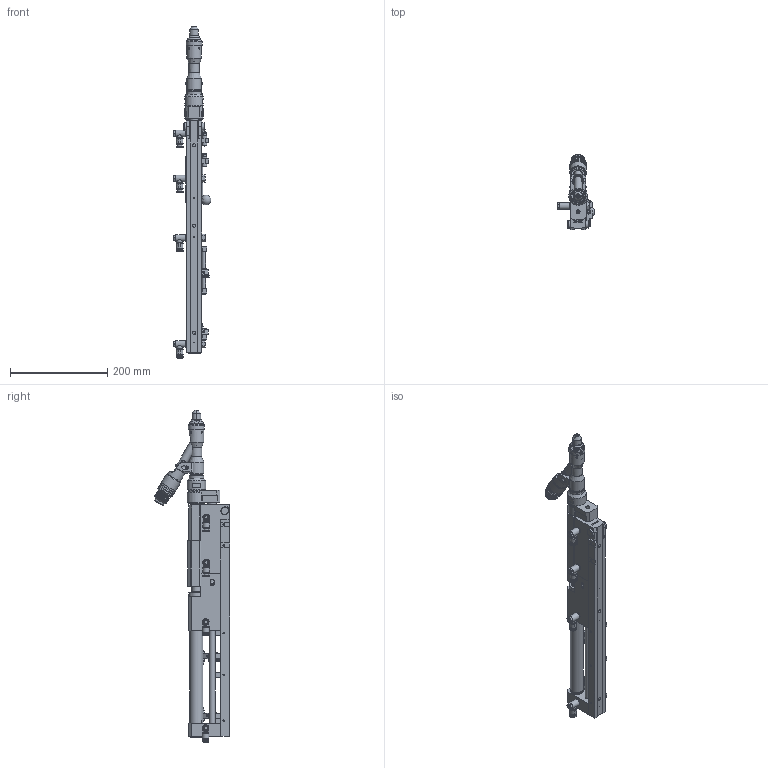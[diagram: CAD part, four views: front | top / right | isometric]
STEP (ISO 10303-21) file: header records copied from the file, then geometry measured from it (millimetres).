
FILE_DESCRIPTION(/* description */ (''),/* implementation_level */ '2;1');
FILE_NAME(/* name */ 'G:\Modelle für Marketing\3Ds Parasolid\3D_Parasolid_automatic_setting_system_EDE2501_series.x_b.ipt.stp',/* time_stamp */ '2016-07-28T11:55:22+02:00',/* author */ ('Wolf'),/* organization */ (''),/* preprocessor_version */ 'ST-DEVELOPER v15.2',/* originating_system */ 'Autodesk Inventor 2014',/* authorisation */ '');
FILE_SCHEMA (('AUTOMOTIVE_DESIGN { 1 0 10303 214 3 1 1 }'));
Products named in the file (1): 3D_Parasolid_automatic_setting_system_EDE2501_series.x_b
Bounding box: 77.32 x 154.22 x 681.7 mm (x, y, z)
Volume: 946952 mm3; surface area: 333361.1 mm2
Topology: 16 solids, 44 shells, 2413 faces, 6284 edges, 4107 vertices
Faces by surface type: plane 1428, cylinder 666, cone 210, torus 51, bspline 50, sphere 8
Full cylindrical faces by diameter (mm): 1 x3, 1.5 x2, 2.38 x2, 2.42 x2, 2.459 x3, 3 x17, 3.02 x2, 3.2 x3, 3.242 x6, 3.5 x1, 3.6 x1, 4 x9, 4.1 x1, 4.134 x9, 4.3 x2, 4.4 x1, 4.5 x5, 4.6 x2, 4.917 x3, 5 x5, 5.6 x2, 6 x10, 6.02 x1, 6.1 x3, 6.2 x1, 6.5 x5, 6.6 x1, 6.647 x7, 7 x15, 7.1 x1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
Entity records: 79367 total; most frequent: CARTESIAN_POINT 21404, DIRECTION 11463, ORIENTED_EDGE 11178, EDGE_CURVE 5589, AXIS2_PLACEMENT_3D 4369, VERTEX_POINT 3898, EDGE_LOOP 3212, LINE 2725
